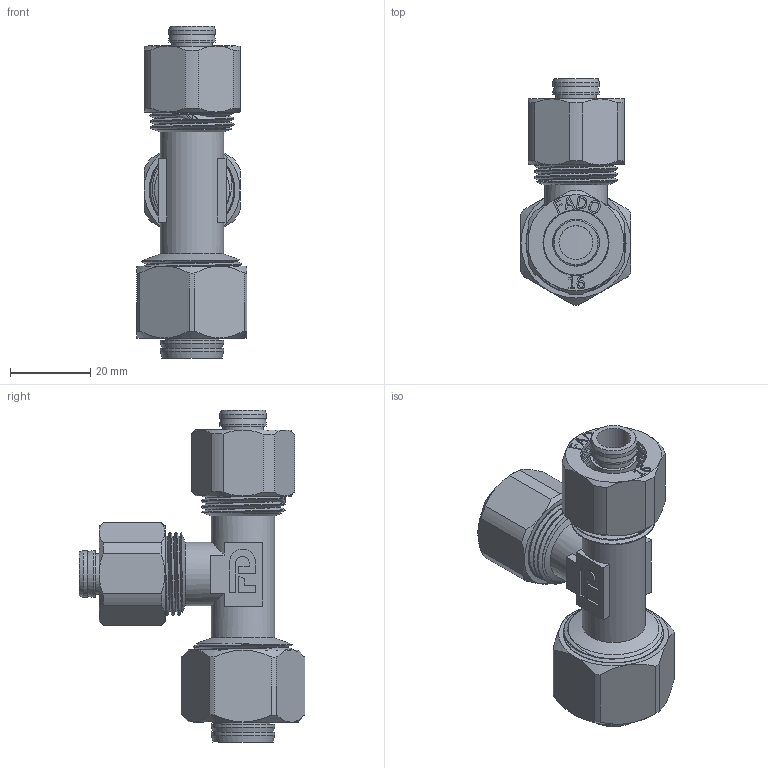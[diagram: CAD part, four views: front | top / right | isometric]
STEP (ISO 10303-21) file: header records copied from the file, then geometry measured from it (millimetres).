
FILE_DESCRIPTION(/* description */ (''),/* implementation_level */ '2;1');
FILE_NAME(/* name */ 'C:\Users\Doom\Desktop\Фадотех\Обжим\RFT03 20x16x16 30.03.2020\RFT03 20x16x16 30.03.2020.0077.stp',/* time_stamp */ '2022-06-01T10:04:50+03:00',/* author */ ('Doom'),/* organization */ (''),/* preprocessor_version */ 'ST-DEVELOPER v18',/* originating_system */ 'Autodesk Inventor 2020',/* authorisation */ '');
FILE_SCHEMA (('AUTOMOTIVE_DESIGN { 1 0 10303 214 3 1 1 }'));
Length unit declared in the file: millimetre
Products named in the file (8): RFT03 20x16x16 30.03.2020.0077; RFM29 32x1.2M 30.03.2020; FADO MC Nut-20 15.02.2020; FADO MC Socket-20 15.02.2020; Olive 20 15.02.2020; Olive 16 15.02.2020; FADO MC Socket-16 15.02.2020; FADO MC Nut-16 15.02.2020
Assembly tree (10 placements, depth 2):
  RFT03 20x16x16 30.03.2020.0077
    RFM29 32x1.2M 30.03.2020
    FADO MC Nut-20 15.02.2020
    FADO MC Socket-20 15.02.2020
    Olive 20 15.02.2020
    Olive 16 15.02.2020  x2
    FADO MC Socket-16 15.02.2020  x2
    FADO MC Nut-16 15.02.2020  x2
Bounding box: 27.5 x 56.5 x 83 mm (x, y, z)
Volume: 27050.5 mm3; surface area: 41663.2 mm2
Topology: 16 solids, 16 shells, 1511 faces, 4137 edges, 2776 vertices
Faces by surface type: bspline 752, plane 453, cylinder 226, cone 78, torus 2
Full cylindrical faces by diameter (mm): 8.5 x2, 10.2 x4, 11.5 x1, 11.7 x8, 12 x2, 12.6 x2, 13.531 x2, 14.5 x1, 14.7 x4, 15.5 x2, 15.8 x2, 15.802 x5, 16.5 x2, 17.391 x1, 17.5 x1, 18 x1, 18.776 x4, 19 x2, 19.5 x2, 19.867 x24, 20.5 x1, 21 x12, 21.35 x4, 22.776 x10, 23 x1, 24.1 x1, 25 x8
Entity records: 62626 total; most frequent: CARTESIAN_POINT 39014, ORIENTED_EDGE 5740, DIRECTION 3302, EDGE_CURVE 2870, VERTEX_POINT 1928, EDGE_LOOP 1156, B_SPLINE_CURVE_WITH_KNOTS 1148, LINE 1142
